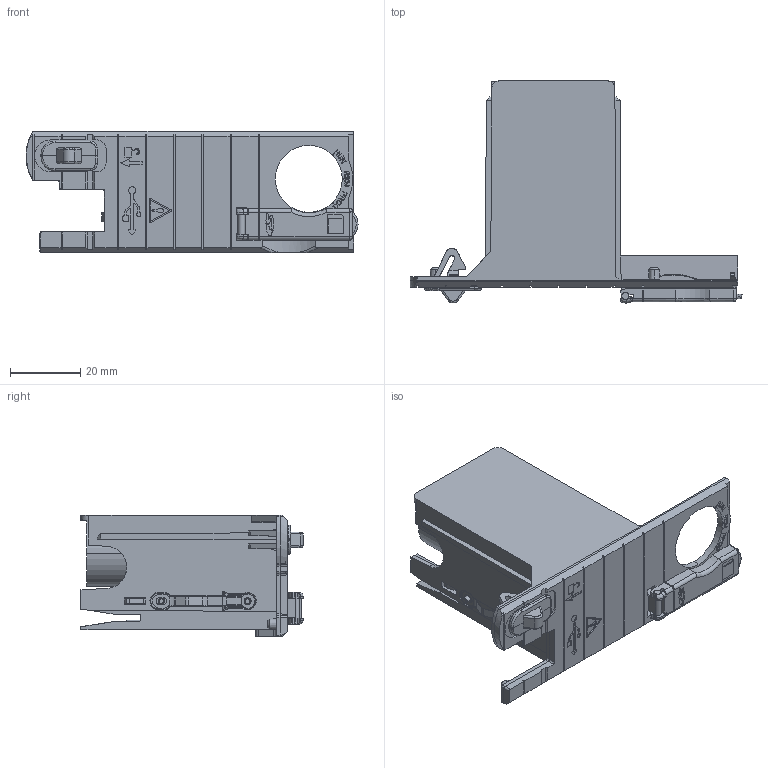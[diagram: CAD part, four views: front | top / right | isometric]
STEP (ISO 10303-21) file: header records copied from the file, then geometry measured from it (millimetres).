
FILE_DESCRIPTION((''),'2;1');
FILE_NAME('10000019014_ASM','2014-03-13T',('wbf'),('Rockwell Automation'),'PRO/ENGINEER BY PARAMETRIC TECHNOLOGY CORPORATION, 2012480','PRO/ENGINEER BY PARAMETRIC TECHNOLOGY CORPORATION, 2012480','');
FILE_SCHEMA(('CONFIG_CONTROL_DESIGN'));
Products named in the file (35): 10000019009; 10000040999; 10000032871; 10000019008; 10000049371_ASM; 10000019004; PCP_PN-26534; CP_1206_SEC; CP_0402; RS_1206_SEC; RS_0402; CP_1210_SEC; STD_SC70_6PIN; CN_20GOLD_EDGE_RPO; CP_0805_PRI; STD_SC70_5PIN; RS_0603_SEC; DI_SLP2020P6; TF_PN-32272; DI_SOD123_SEC; RS_0805_SEC; STD_SC75_PO132; IC_VSOJ12; IC_SO8_150_SEC; PCP_PN-32618; TS_94486401; RS_24783011; PCP_7343A; IC_TSOP5; IC_MSOP10_118; IC_TSSOP8; DI_DO214AB_PRI; 10000019007_ASM; 94210935-1; 10000019014_ASM
Assembly tree (93 placements, depth 3):
  10000019014_ASM
    10000049371_ASM
      10000019009
      10000040999
      10000032871
      10000019008
    10000019007_ASM
      10000019004
      PCP_PN-26534
      CP_1206_SEC  x5
      CP_0402  x15
      RS_1206_SEC  x3
      RS_0402  x13
      CP_1210_SEC  x5
      STD_SC70_6PIN
      CN_20GOLD_EDGE_RPO
      CP_0805_PRI  x2
      STD_SC70_5PIN
      RS_0603_SEC  x13
      DI_SLP2020P6  x2
      TF_PN-32272  x2
      DI_SOD123_SEC  x3
      RS_0805_SEC  x7
      STD_SC75_PO132
      IC_VSOJ12
      IC_SO8_150_SEC
      PCP_PN-32618
      TS_94486401
      RS_24783011
      PCP_7343A
      IC_TSOP5
      IC_MSOP10_118
      IC_TSSOP8
      DI_DO214AB_PRI
    94210935-1
Bounding box: 94.29 x 63.06 x 34.55 mm (x, y, z)
Volume: 39440.3 mm3; surface area: 37925 mm2
Topology: 112 solids, 113 shells, 4670 faces, 11949 edges, 7709 vertices
Faces by surface type: plane 3575, cylinder 829, sphere 133, cone 48, bspline 44, extrusion 23, torus 18
Entity records: 104571 total; most frequent: CARTESIAN_POINT 21964, ORIENTED_EDGE 17358, DIRECTION 16313, EDGE_CURVE 8679, VECTOR 7139, LINE 7116, VERTEX_POINT 5617, AXIS2_PLACEMENT_3D 4587
